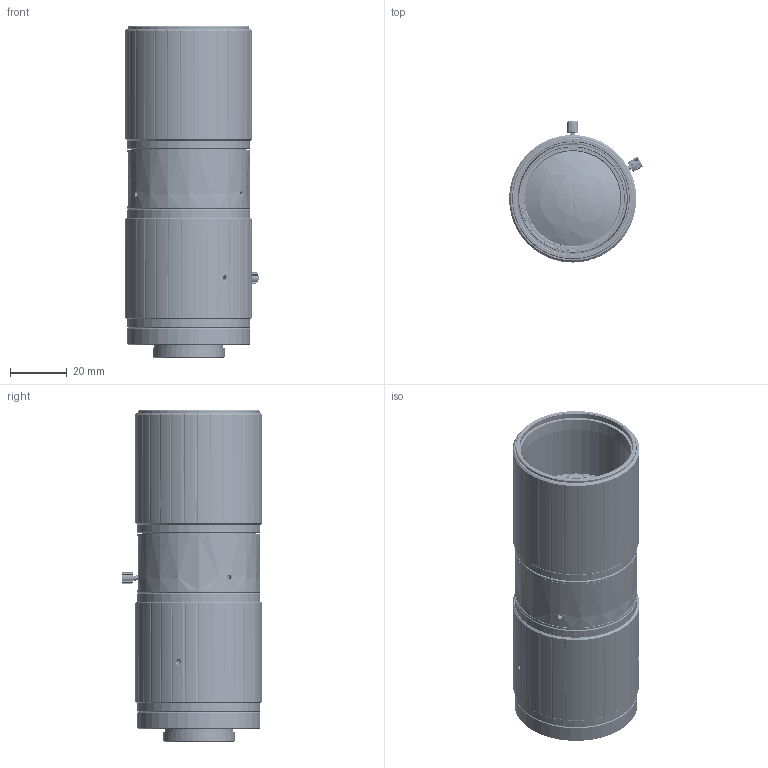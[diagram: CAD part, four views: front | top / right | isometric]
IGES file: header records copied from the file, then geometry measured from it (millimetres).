
Start section: SolidWorks IGES file using analytic representation for surfaces
Global section: file name: 8HF:\产品\产品图\90本公司\MJ9943xx12\MJ9943100120\装配\总装\MJ9943100120总装.IGS; native system: SolidWorks 2018; preprocessor: SolidWorks 2018; author: hai; date: 231227.190954; units: millimetre
Bounding box: 47.22 x 49.8 x 117.4 mm (x, y, z)
Surface area: 107627.8 mm2 (no closed solid volume)
Topology: 0 solids, 0 shells, 2927 faces, 38495 edges, 38470 vertices
Faces by surface type: revolution 1981, bspline 946
